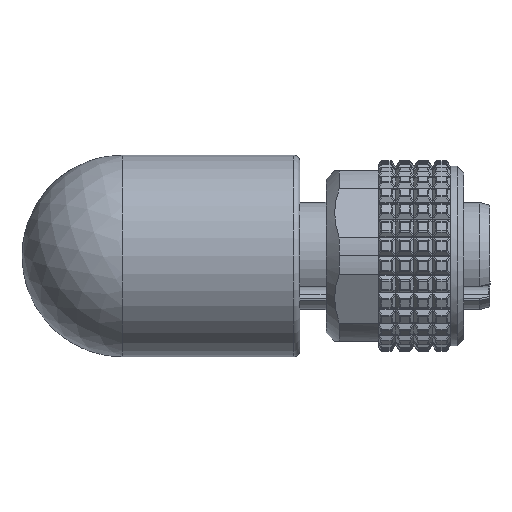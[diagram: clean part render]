
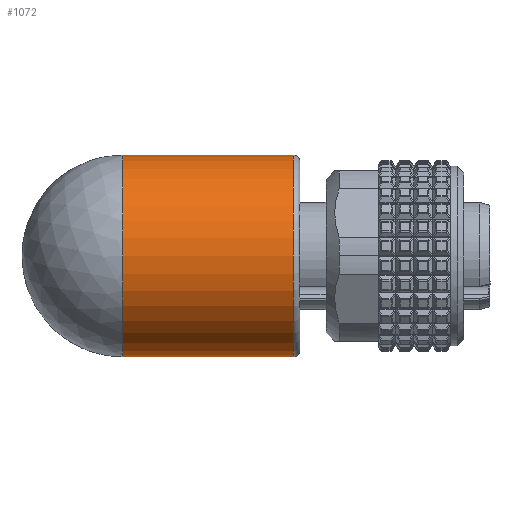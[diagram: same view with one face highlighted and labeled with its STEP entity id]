
A CAD part, left-side view. The second image highlights one B-rep face of the part: STEP entity #1072.
In plain terms, the highlighted cylindrical face has radius 7.7 mm (diameter 15.4 mm), a full revolution.
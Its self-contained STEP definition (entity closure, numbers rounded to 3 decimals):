
#991=CARTESIAN_POINT('',(4.1,13.5,7.7));
#992=VERTEX_POINT('',#991);
#993=CARTESIAN_POINT('',(4.1,13.5,-7.7));
#994=VERTEX_POINT('',#993);
#995=CARTESIAN_POINT('',(4.1,13.5,7.7));
#996=CARTESIAN_POINT('',(4.103,13.496,7.7));
#997=CARTESIAN_POINT('',(4.107,13.493,7.7));
#998=CARTESIAN_POINT('',(4.802,12.719,7.699));
#999=CARTESIAN_POINT('',(6.19,11.176,7.511));
#1000=CARTESIAN_POINT('',(8.195,8.948,6.649));
#1001=CARTESIAN_POINT('',(9.999,6.942,5.143));
#1002=CARTESIAN_POINT('',(11.41,5.373,2.921));
#1003=CARTESIAN_POINT('',(11.996,4.722,0.));
#1004=CARTESIAN_POINT('',(11.509,5.264,-2.434));
#1005=CARTESIAN_POINT('',(10.702,6.16,-4.03));
#1006=CARTESIAN_POINT('',(9.954,6.993,-5.054));
#1007=CARTESIAN_POINT('',(9.096,7.947,-5.898));
#1008=CARTESIAN_POINT('',(8.172,8.973,-6.567));
#1009=CARTESIAN_POINT('',(7.19,10.066,-7.081));
#1010=CARTESIAN_POINT('',(6.183,11.185,-7.438));
#1011=CARTESIAN_POINT('',(5.15,12.333,-7.652));
#1012=CARTESIAN_POINT('',(4.456,13.104,-7.7));
#1013=CARTESIAN_POINT('',(4.107,13.493,-7.7));
#1014=CARTESIAN_POINT('',(4.103,13.496,-7.7));
#1015=CARTESIAN_POINT('',(4.1,13.5,-7.7));
#1016=B_SPLINE_CURVE_WITH_KNOTS('',3,(#995,#996,#997,#998,#999,#1000,#1001,#1002,#1003,#1004,#1005,#1006,#1007,#1008,#1009,#1010,#1011,#1012,#1013,#1014,#1015),.UNSPECIFIED.,.F.,.U.,(4,2,1,1,1,1,1,1,1,1,1,1,1,1,1,2,4),(-3.292,-3.291,-2.962,-2.632,-2.303,-1.974,-1.645,-1.316,-1.152,-0.987,-0.823,-0.658,-0.494,-0.329,-0.165,0.0,0.002),.UNSPECIFIED.);
#1017=EDGE_CURVE('',#992,#994,#1016,.T.);
#1046=CARTESIAN_POINT('',(4.1,7.,0.0));
#1047=DIRECTION('',(0.,1.0,0.0));
#1048=DIRECTION('',(-1.0,0.0,0.0));
#1049=AXIS2_PLACEMENT_3D('',#1046,#1047,#1048);
#1050=CYLINDRICAL_SURFACE('',#1049,7.7);
#1051=CARTESIAN_POINT('',(-3.6,0.5,0.0));
#1052=VERTEX_POINT('',#1051);
#1053=CARTESIAN_POINT('',(4.1,0.5,0.0));
#1054=DIRECTION('',(0.0,1.0,0.0));
#1055=DIRECTION('',(-1.0,0.0,0.0));
#1056=AXIS2_PLACEMENT_3D('',#1053,#1054,#1055);
#1057=CIRCLE('',#1056,7.7);
#1058=EDGE_CURVE('',#1052,#1052,#1057,.T.);
#1059=ORIENTED_EDGE('',*,*,#1058,.T.);
#1060=EDGE_LOOP('',(#1059));
#1061=FACE_OUTER_BOUND('',#1060,.T.);
#1062=ORIENTED_EDGE('',*,*,#1017,.F.);
#1063=CARTESIAN_POINT('',(4.1,13.5,0.0));
#1064=DIRECTION('',(0.0,1.0,0.0));
#1065=DIRECTION('',(-1.0,0.0,0.0));
#1066=AXIS2_PLACEMENT_3D('',#1063,#1064,#1065);
#1067=CIRCLE('',#1066,7.7);
#1068=EDGE_CURVE('',#994,#992,#1067,.T.);
#1069=ORIENTED_EDGE('',*,*,#1068,.F.);
#1070=EDGE_LOOP('',(#1062,#1069));
#1071=FACE_BOUND('',#1070,.T.);
#1072=ADVANCED_FACE('',(#1061,#1071),#1050,.T.);
